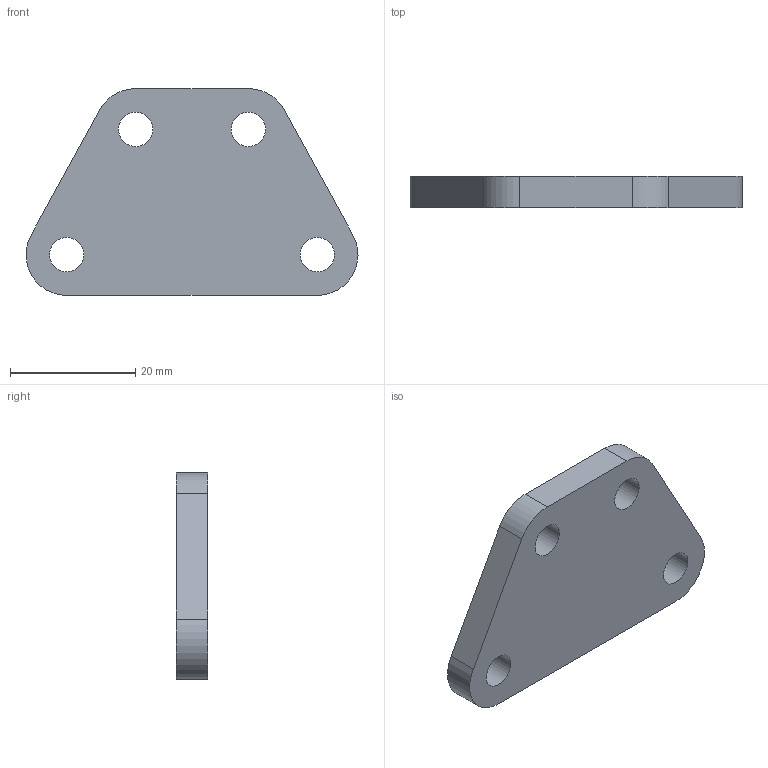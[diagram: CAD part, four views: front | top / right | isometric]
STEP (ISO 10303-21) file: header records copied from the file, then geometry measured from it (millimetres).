
FILE_DESCRIPTION(/* description */ (''),/* implementation_level */ '2;1');
FILE_NAME(/* name */ 'attache_patin2.stp',/* time_stamp */ '2026-09-21T15:08:50+02:00',/* author */ (''),/* organization */ (''),/* preprocessor_version */ 'ST-DEVELOPER v20',/* originating_system */ 'SIEMENS PLM Software NX2406.4001',/* authorisation */ '');
FILE_SCHEMA (('AUTOMOTIVE_DESIGN { 1 0 10303 214 3 1 1 1 }'));
Length unit declared in the file: millimetre
Products named in the file (1): attache_patin2
Bounding box: 53 x 5 x 33 mm (x, y, z)
Volume: 6457.1 mm3; surface area: 3650.9 mm2
Topology: 1 solids, 1 shells, 14 faces, 36 edges, 24 vertices
Faces by surface type: cylinder 8, plane 6
Full cylindrical faces by diameter (mm): 5.5 x4
Entity records: 456 total; most frequent: DIRECTION 78, CARTESIAN_POINT 71, ORIENTED_EDGE 64, EDGE_CURVE 32, AXIS2_PLACEMENT_3D 31, EDGE_LOOP 26, VERTEX_POINT 24, FACE_BOUND 18
